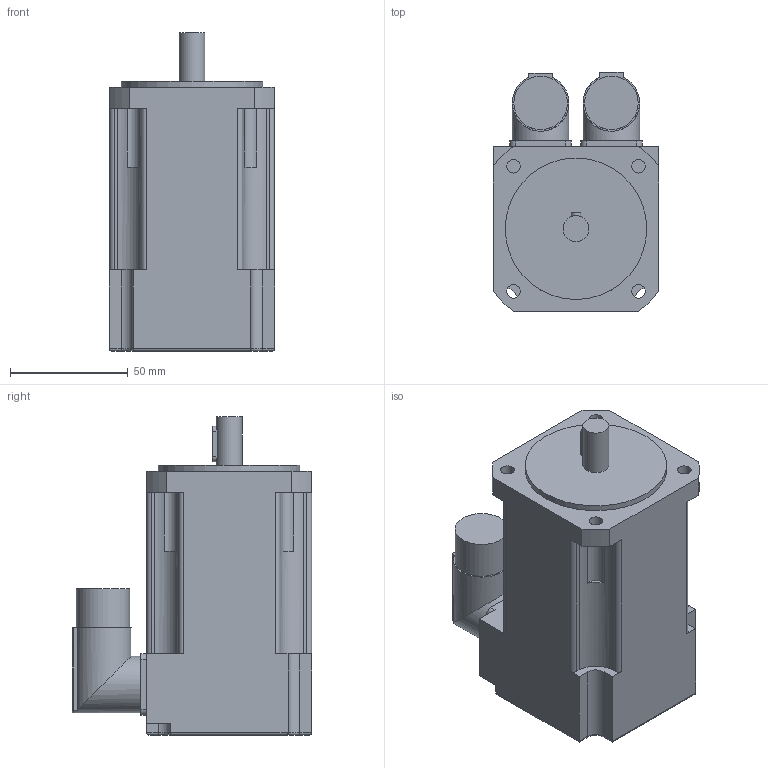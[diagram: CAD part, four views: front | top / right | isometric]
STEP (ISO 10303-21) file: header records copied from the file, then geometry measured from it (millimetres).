
FILE_DESCRIPTION(/* description */ (''),/* implementation_level */ '2;1');
FILE_NAME(/* name */ '\\Lafnas01\disegni\Archivi Lafert\3D\CAD 3D\MODELLI\Assiemi clienti\Serad\Modelli 3D Serad\B36Q\Resolver\Res Without Brake\B36D6Qxx6A052033.ipt.stp',/* time_stamp */ '2015-09-07T10:49:33+02:00',/* author */ ('Pastrello Ylenia'),/* organization */ (''),/* preprocessor_version */ 'ST-DEVELOPER v15.6',/* originating_system */ 'Autodesk Inventor 2015',/* authorisation */ '');
FILE_SCHEMA (('AUTOMOTIVE_DESIGN { 1 0 10303 214 3 1 1 }'));
Length unit declared in the file: millimetre
Products named in the file (1): B36D6Qxx6A052033
Bounding box: 70 x 101.5 x 135 mm (x, y, z)
Volume: 556773.2 mm3; surface area: 50743.2 mm2
Topology: 1 solids, 1 shells, 121 faces, 322 edges, 210 vertices
Faces by surface type: plane 59, cylinder 58, torus 4
Full cylindrical faces by diameter (mm): 5.8 x4, 11 x1, 22.7 x2, 24 x2, 60 x1
Entity records: 3806 total; most frequent: CARTESIAN_POINT 678, DIRECTION 676, ORIENTED_EDGE 624, EDGE_CURVE 312, AXIS2_PLACEMENT_3D 244, VERTEX_POINT 210, LINE 188, VECTOR 188
